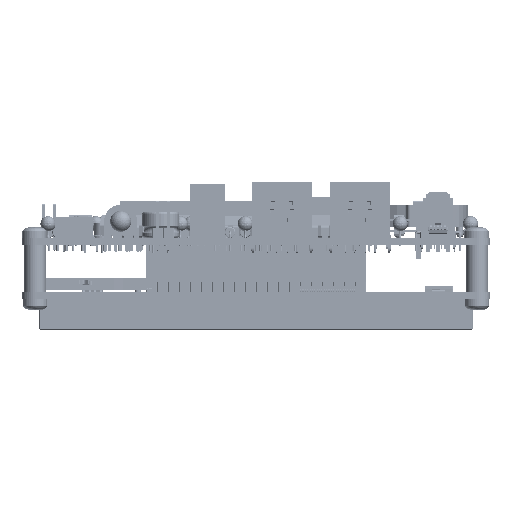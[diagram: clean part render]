
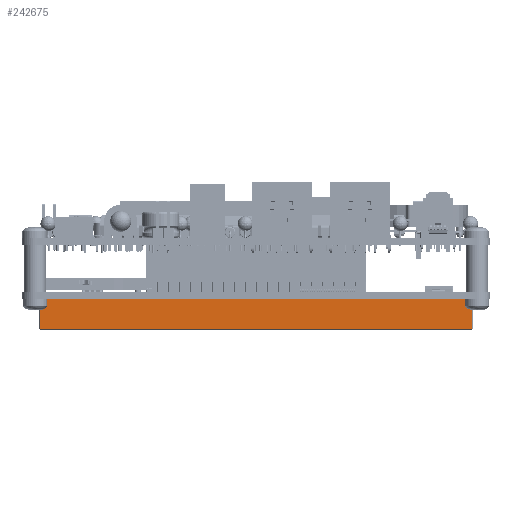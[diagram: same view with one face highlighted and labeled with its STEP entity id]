
A CAD part, left-side view. The second image highlights one B-rep face of the part: STEP entity #242675.
In plain terms, the highlighted planar face has unit normal (-1, 0, 0) as drawn and (0, -1, 0) by its records, which use the part's own axes.
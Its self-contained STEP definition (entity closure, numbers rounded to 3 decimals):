
#238690 = EDGE_CURVE('',#238691,#238693,#238695,.T.);
#238691 = VERTEX_POINT('',#238692);
#238692 = CARTESIAN_POINT('',(-25.67,-170.25,1.6));
#238693 = VERTEX_POINT('',#238694);
#238694 = CARTESIAN_POINT('',(73.93,-170.25,1.6));
#238695 = LINE('',#238696,#238697);
#238696 = CARTESIAN_POINT('',(-25.87,-170.25,1.6));
#238697 = VECTOR('',#238698,1.);
#238698 = DIRECTION('',(1.,0.,0.));
#242675 = ADVANCED_FACE('',(#242676),#242701,.F.);
#242676 = FACE_BOUND('',#242677,.T.);
#242677 = EDGE_LOOP('',(#242678,#242688,#242694,#242695));
#242678 = ORIENTED_EDGE('',*,*,#242679,.T.);
#242679 = EDGE_CURVE('',#242680,#242682,#242684,.T.);
#242680 = VERTEX_POINT('',#242681);
#242681 = CARTESIAN_POINT('',(73.93,-170.25,8.4));
#242682 = VERTEX_POINT('',#242683);
#242683 = CARTESIAN_POINT('',(-25.67,-170.25,8.4));
#242684 = LINE('',#242685,#242686);
#242685 = CARTESIAN_POINT('',(-25.87,-170.25,8.4));
#242686 = VECTOR('',#242687,1.);
#242687 = DIRECTION('',(-1.,0.,0.));
#242688 = ORIENTED_EDGE('',*,*,#242689,.T.);
#242689 = EDGE_CURVE('',#242682,#238691,#242690,.T.);
#242690 = LINE('',#242691,#242692);
#242691 = CARTESIAN_POINT('',(-25.67,-170.25,8.6));
#242692 = VECTOR('',#242693,1.);
#242693 = DIRECTION('',(0.,0.,-1.));
#242694 = ORIENTED_EDGE('',*,*,#238690,.T.);
#242695 = ORIENTED_EDGE('',*,*,#242696,.T.);
#242696 = EDGE_CURVE('',#238693,#242680,#242697,.T.);
#242697 = LINE('',#242698,#242699);
#242698 = CARTESIAN_POINT('',(73.93,-170.25,8.6));
#242699 = VECTOR('',#242700,1.);
#242700 = DIRECTION('',(0.,0.,1.));
#242701 = PLANE('',#242702);
#242702 = AXIS2_PLACEMENT_3D('',#242703,#242704,#242705);
#242703 = CARTESIAN_POINT('',(-25.87,-170.25,8.6));
#242704 = DIRECTION('',(0.,1.,0.));
#242705 = DIRECTION('',(0.,0.,1.));
